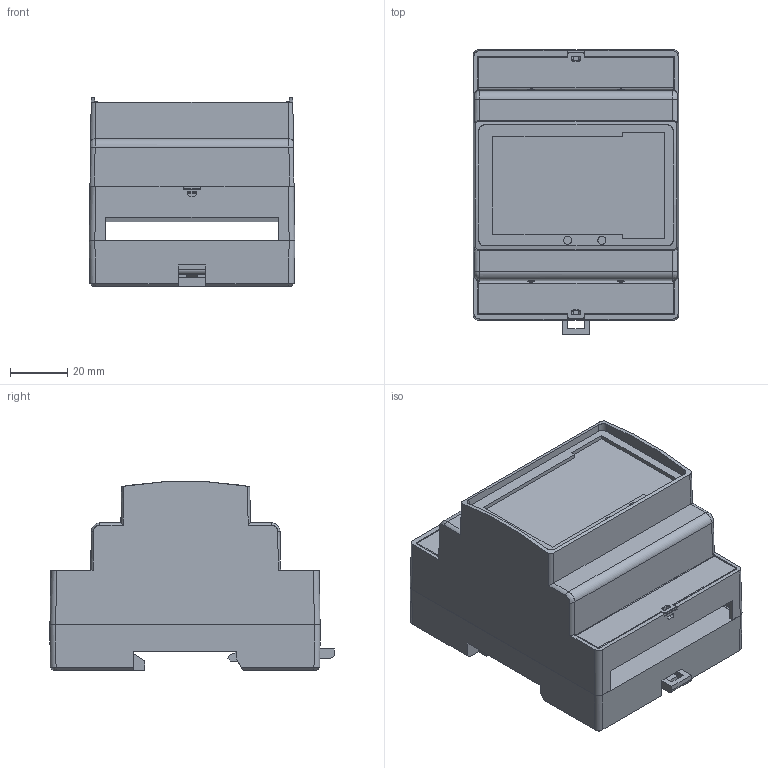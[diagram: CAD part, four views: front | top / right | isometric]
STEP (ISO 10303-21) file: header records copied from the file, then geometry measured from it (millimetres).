
FILE_DESCRIPTION(/* description */ (''),/* implementation_level */ '2;1');
FILE_NAME(/* name */ 'SDM630MCT_71.8款.stp',/* time_stamp */ '2023-09-26T13:17:37+08:00',/* author */ (''),/* organization */ (''),/* preprocessor_version */ 'ST-DEVELOPER v16',/* originating_system */ 'SIEMENS PLM Software NX 10.0',/* authorisation */ '');
FILE_SCHEMA (('AUTOMOTIVE_DESIGN { 1 0 10303 214 3 1 1 1 }'));
Length unit declared in the file: millimetre
Products named in the file (1): Admi57BC1A46kkmi
Bounding box: 71.8 x 99.32 x 65.94 mm (x, y, z)
Volume: 268191.2 mm3; surface area: 57826.2 mm2
Topology: 5 solids, 7 shells, 1157 faces, 3050 edges, 1969 vertices
Faces by surface type: plane 523, cylinder 312, extrusion 180, bspline 64, torus 48, sphere 18, revolution 8, cone 4
Full cylindrical faces by diameter (mm): 2.8 x2, 3.8 x12, 4 x8
Entity records: 45120 total; most frequent: CARTESIAN_POINT 14307, ORIENTED_EDGE 5984, DIRECTION 5424, EDGE_CURVE 2992, VERTEX_POINT 1946, VECTOR 1896, AXIS2_PLACEMENT_3D 1760, LINE 1716
